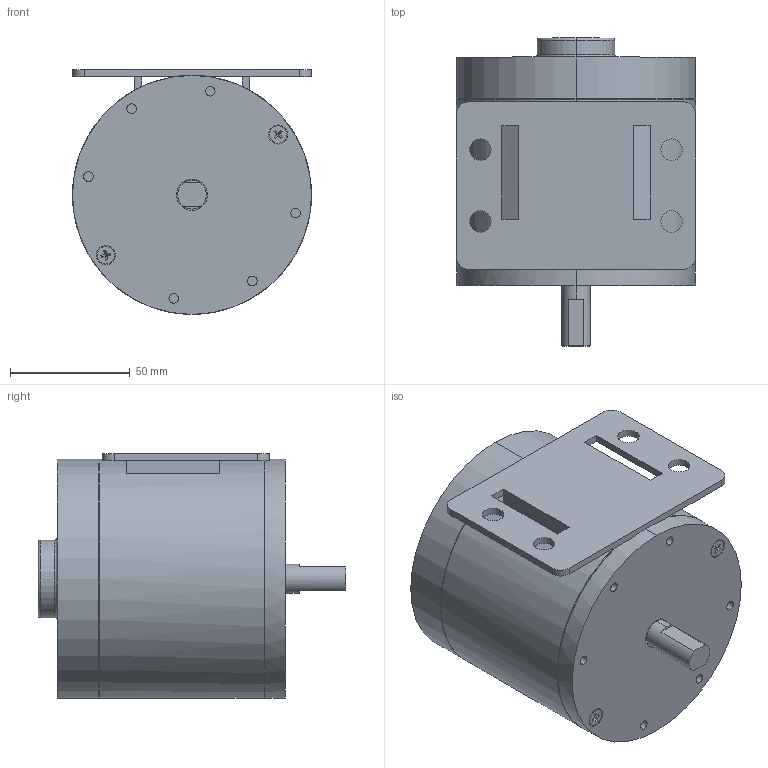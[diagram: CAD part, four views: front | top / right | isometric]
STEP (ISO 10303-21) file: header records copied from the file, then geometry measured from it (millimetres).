
FILE_DESCRIPTION (( 'STEP AP214' ), '1' );
FILE_NAME ('M9480LT-MODEL.STEP', '2017-06-12T07:36:35', ( 'Sky123.Org' ), ( 'Sky123.Org' ), 'SwSTEP 2.0', 'SolidWorks 2015', '' );
FILE_SCHEMA (( 'AUTOMOTIVE_DESIGN' ));
Length unit declared in the file: millimetre
Products named in the file (3): flat head screw_am_B18.6.7M - M3.5 x 0.6 x 6 Type I Cross Recessed FHMS --6N; M9480LT; M9480LT-MODEL
Assembly tree (3 placements, depth 2):
  M9480LT-MODEL
    M9480LT
    flat head screw_am_B18.6.7M - M3.5 x 0.6 x 6 Type I Cross Recessed FHMS --6N  x2
Bounding box: 100 x 128.8 x 102.4 mm (x, y, z)
Volume: 299546.8 mm3; surface area: 95531 mm2
Topology: 4 solids, 4 shells, 131 faces, 317 edges, 200 vertices
Faces by surface type: plane 66, cylinder 54, torus 7, cone 4
Entity records: 3895 total; most frequent: DIRECTION 630, CARTESIAN_POINT 593, ORIENTED_EDGE 550, EDGE_CURVE 275, AXIS2_PLACEMENT_3D 241, VERTEX_POINT 176, LINE 148, VECTOR 148
